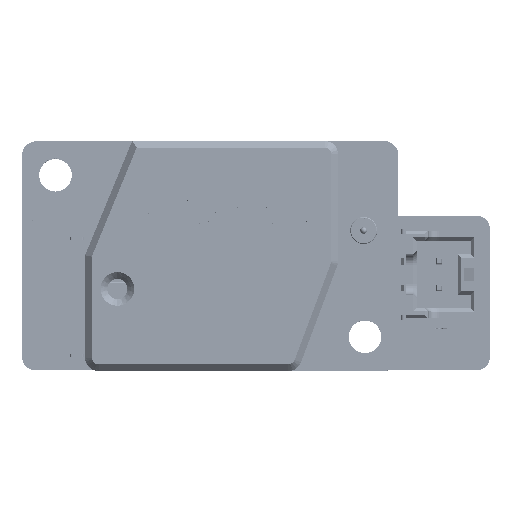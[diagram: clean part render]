
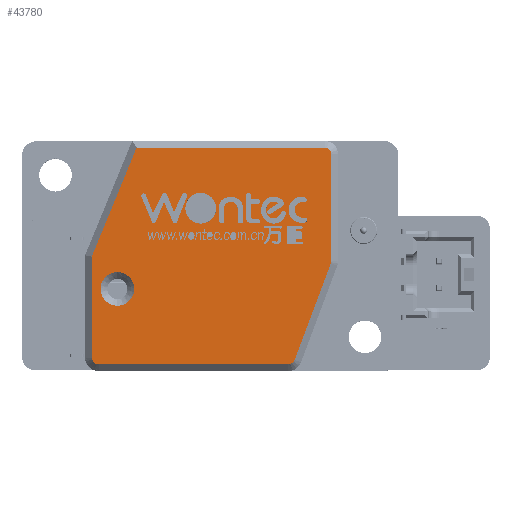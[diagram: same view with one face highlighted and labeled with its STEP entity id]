
A CAD part, top view. The second image highlights one B-rep face of the part: STEP entity #43780.
In plain terms, the highlighted planar face has unit normal (0, 0, 1).
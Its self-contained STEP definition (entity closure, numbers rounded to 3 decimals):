
#4927 = FACE_OUTER_BOUND ( 'NONE', #78539, .T. ) ;
#5241 = AXIS2_PLACEMENT_3D ( 'NONE', #79994, #14444, #16612 ) ;
#7108 = DIRECTION ( 'NONE',  ( 1., 0., 0. ) ) ;
#9121 = VERTEX_POINT ( 'NONE', #16644 ) ;
#11958 = CARTESIAN_POINT ( 'NONE',  ( 7.55, -9., 4.4 ) ) ;
#14105 = DIRECTION ( 'NONE',  ( 1., 0., 0. ) ) ;
#14444 = DIRECTION ( 'NONE',  ( 0., 0., 1. ) ) ;
#16612 = DIRECTION ( 'NONE',  ( 1., 0., 0. ) ) ;
#16644 = CARTESIAN_POINT ( 'NONE',  ( -3.7, 6.9, 4.4 ) ) ;
#22159 = VERTEX_POINT ( 'NONE', #314937 ) ;
#23250 = EDGE_CURVE ( 'NONE', #99260, #9121, #190609, .T. ) ;
#23524 = DIRECTION ( 'NONE',  ( 0., 0., 1. ) ) ;
#24851 = VECTOR ( 'NONE', #101810, 1000. ) ;
#25896 = CARTESIAN_POINT ( 'NONE',  ( 8.05, 5.465, 4.4 ) ) ;
#36885 = ORIENTED_EDGE ( 'NONE', *, *, #196917, .T. ) ;
#38306 = DIRECTION ( 'NONE',  ( 0., 1., 0. ) ) ;
#39463 = EDGE_LOOP ( 'NONE', ( #288879, #265808 ) ) ;
#41475 = CARTESIAN_POINT ( 'NONE',  ( -2.45, 6.9, 4.4 ) ) ;
#43780 = ADVANCED_FACE ( 'NONE', ( #101068, #4927 ), #68324, .T. ) ;
#52179 = VERTEX_POINT ( 'NONE', #84497 ) ;
#53360 = CARTESIAN_POINT ( 'NONE',  ( -0.369, -8.5, 4.4 ) ) ;
#60953 = ORIENTED_EDGE ( 'NONE', *, *, #70192, .T. ) ;
#63411 = AXIS2_PLACEMENT_3D ( 'NONE', #53360, #186219, #286203 ) ;
#65314 = DIRECTION ( 'NONE',  ( -1., 0., 0. ) ) ;
#68064 = LINE ( 'NONE', #429536, #321140 ) ;
#68324 = PLANE ( 'NONE',  #221618 ) ;
#69671 = CARTESIAN_POINT ( 'NONE',  ( 3.091, 7.507, 4.4 ) ) ;
#70192 = EDGE_CURVE ( 'NONE', #268305, #209458, #68064, .T. ) ;
#78539 = EDGE_LOOP ( 'NONE', ( #272839, #93512, #336095, #402358, #168403, #425672, #300379, #60953, #36885, #222773 ) ) ;
#79994 = CARTESIAN_POINT ( 'NONE',  ( -7.55, 8.3, 4.4 ) ) ;
#80007 = VECTOR ( 'NONE', #65314, 1000. ) ;
#80659 = DIRECTION ( 'NONE',  ( 1., 0., 0. ) ) ;
#84497 = CARTESIAN_POINT ( 'NONE',  ( -7.55, 8.8, 4.4 ) ) ;
#93512 = ORIENTED_EDGE ( 'NONE', *, *, #259049, .T. ) ;
#94679 = EDGE_CURVE ( 'NONE', #9121, #99260, #232188, .T. ) ;
#96861 = VECTOR ( 'NONE', #38306, 1000. ) ;
#98667 = VERTEX_POINT ( 'NONE', #25896 ) ;
#99260 = VERTEX_POINT ( 'NONE', #128838 ) ;
#101068 = FACE_BOUND ( 'NONE', #39463, .T. ) ;
#101407 = DIRECTION ( 'NONE',  ( 1., 0., 0. ) ) ;
#101810 = DIRECTION ( 'NONE',  ( 0., -1., 0. ) ) ;
#105357 = DIRECTION ( 'NONE',  ( 0., 0., 1. ) ) ;
#114094 = AXIS2_PLACEMENT_3D ( 'NONE', #264639, #425821, #101407 ) ;
#128838 = CARTESIAN_POINT ( 'NONE',  ( -1.2, 6.9, 4.4 ) ) ;
#131031 = CIRCLE ( 'NONE', #430002, 0.5 ) ;
#131713 = CARTESIAN_POINT ( 'NONE',  ( -0.544, -8.968, 4.4 ) ) ;
#135593 = DIRECTION ( 'NONE',  ( 0.936, -0.351, 0. ) ) ;
#137942 = DIRECTION ( 'NONE',  ( 0., 0., 1. ) ) ;
#142476 = VECTOR ( 'NONE', #14105, 1000. ) ;
#142677 = EDGE_CURVE ( 'NONE', #225827, #22159, #430521, .T. ) ;
#168403 = ORIENTED_EDGE ( 'NONE', *, *, #329765, .T. ) ;
#168781 = VERTEX_POINT ( 'NONE', #412429 ) ;
#186219 = DIRECTION ( 'NONE',  ( 0., 0., 1. ) ) ;
#190609 = CIRCLE ( 'NONE', #114094, 1.25 ) ;
#196917 = EDGE_CURVE ( 'NONE', #209458, #374447, #383216, .T. ) ;
#197634 = CARTESIAN_POINT ( 'NONE',  ( -8.05, -5.807, 4.4 ) ) ;
#198296 = CARTESIAN_POINT ( 'NONE',  ( -7.726, -6.275, 4.4 ) ) ;
#209458 = VERTEX_POINT ( 'NONE', #131713 ) ;
#210033 = EDGE_CURVE ( 'NONE', #22159, #268305, #131031, .T. ) ;
#210330 = LINE ( 'NONE', #11958, #142476 ) ;
#210611 = VECTOR ( 'NONE', #335226, 1000. ) ;
#221618 = AXIS2_PLACEMENT_3D ( 'NONE', #233909, #105357, #403530 ) ;
#222773 = ORIENTED_EDGE ( 'NONE', *, *, #360447, .T. ) ;
#225827 = VERTEX_POINT ( 'NONE', #308269 ) ;
#228504 = EDGE_CURVE ( 'NONE', #168781, #52179, #431009, .T. ) ;
#232188 = CIRCLE ( 'NONE', #343274, 1.25 ) ;
#233909 = CARTESIAN_POINT ( 'NONE',  ( 0., 0., 4.4 ) ) ;
#238502 = EDGE_CURVE ( 'NONE', #98667, #168781, #272026, .T. ) ;
#238672 = CARTESIAN_POINT ( 'NONE',  ( 8.05, -8.5, 4.4 ) ) ;
#239496 = VERTEX_POINT ( 'NONE', #238672 ) ;
#259049 = EDGE_CURVE ( 'NONE', #239496, #98667, #387519, .T. ) ;
#264639 = CARTESIAN_POINT ( 'NONE',  ( -2.45, 6.9, 4.4 ) ) ;
#265079 = CARTESIAN_POINT ( 'NONE',  ( -7.55, -5.807, 4.4 ) ) ;
#265808 = ORIENTED_EDGE ( 'NONE', *, *, #94679, .T. ) ;
#268305 = VERTEX_POINT ( 'NONE', #198296 ) ;
#272026 = LINE ( 'NONE', #69671, #210611 ) ;
#272839 = ORIENTED_EDGE ( 'NONE', *, *, #337553, .T. ) ;
#286203 = DIRECTION ( 'NONE',  ( 1., 0., 0. ) ) ;
#288363 = CARTESIAN_POINT ( 'NONE',  ( 7.55, -9., 4.4 ) ) ;
#288879 = ORIENTED_EDGE ( 'NONE', *, *, #23250, .T. ) ;
#297968 = VERTEX_POINT ( 'NONE', #288363 ) ;
#300379 = ORIENTED_EDGE ( 'NONE', *, *, #210033, .T. ) ;
#305490 = CARTESIAN_POINT ( 'NONE',  ( 7.55, -8.5, 4.4 ) ) ;
#308269 = CARTESIAN_POINT ( 'NONE',  ( -8.05, 8.3, 4.4 ) ) ;
#314937 = CARTESIAN_POINT ( 'NONE',  ( -8.05, -5.807, 4.4 ) ) ;
#321140 = VECTOR ( 'NONE', #135593, 1000. ) ;
#325714 = CIRCLE ( 'NONE', #381362, 0.5 ) ;
#329765 = EDGE_CURVE ( 'NONE', #52179, #225827, #366905, .T. ) ;
#335226 = DIRECTION ( 'NONE',  ( -0.925, 0.381, 0. ) ) ;
#336095 = ORIENTED_EDGE ( 'NONE', *, *, #238502, .T. ) ;
#337553 = EDGE_CURVE ( 'NONE', #297968, #239496, #325714, .T. ) ;
#343274 = AXIS2_PLACEMENT_3D ( 'NONE', #41475, #411497, #80659 ) ;
#360447 = EDGE_CURVE ( 'NONE', #374447, #297968, #210330, .T. ) ;
#363516 = CARTESIAN_POINT ( 'NONE',  ( 0., 8.8, 4.4 ) ) ;
#366905 = CIRCLE ( 'NONE', #5241, 0.5 ) ;
#373456 = CARTESIAN_POINT ( 'NONE',  ( -0.369, -9., 4.4 ) ) ;
#374447 = VERTEX_POINT ( 'NONE', #373456 ) ;
#381362 = AXIS2_PLACEMENT_3D ( 'NONE', #305490, #137942, #7108 ) ;
#383216 = CIRCLE ( 'NONE', #63411, 0.5 ) ;
#387519 = LINE ( 'NONE', #389634, #96861 ) ;
#389634 = CARTESIAN_POINT ( 'NONE',  ( 8.05, 5.8, 4.4 ) ) ;
#402358 = ORIENTED_EDGE ( 'NONE', *, *, #228504, .T. ) ;
#403530 = DIRECTION ( 'NONE',  ( 1., 0., 0. ) ) ;
#411497 = DIRECTION ( 'NONE',  ( 0., 0., -1. ) ) ;
#412429 = CARTESIAN_POINT ( 'NONE',  ( -0.049, 8.8, 4.4 ) ) ;
#425672 = ORIENTED_EDGE ( 'NONE', *, *, #142677, .T. ) ;
#425821 = DIRECTION ( 'NONE',  ( 0., 0., -1. ) ) ;
#429536 = CARTESIAN_POINT ( 'NONE',  ( -0.544, -8.968, 4.4 ) ) ;
#430002 = AXIS2_PLACEMENT_3D ( 'NONE', #265079, #23524, #430565 ) ;
#430521 = LINE ( 'NONE', #197634, #24851 ) ;
#430565 = DIRECTION ( 'NONE',  ( 1., 0., 0. ) ) ;
#431009 = LINE ( 'NONE', #363516, #80007 ) ;
